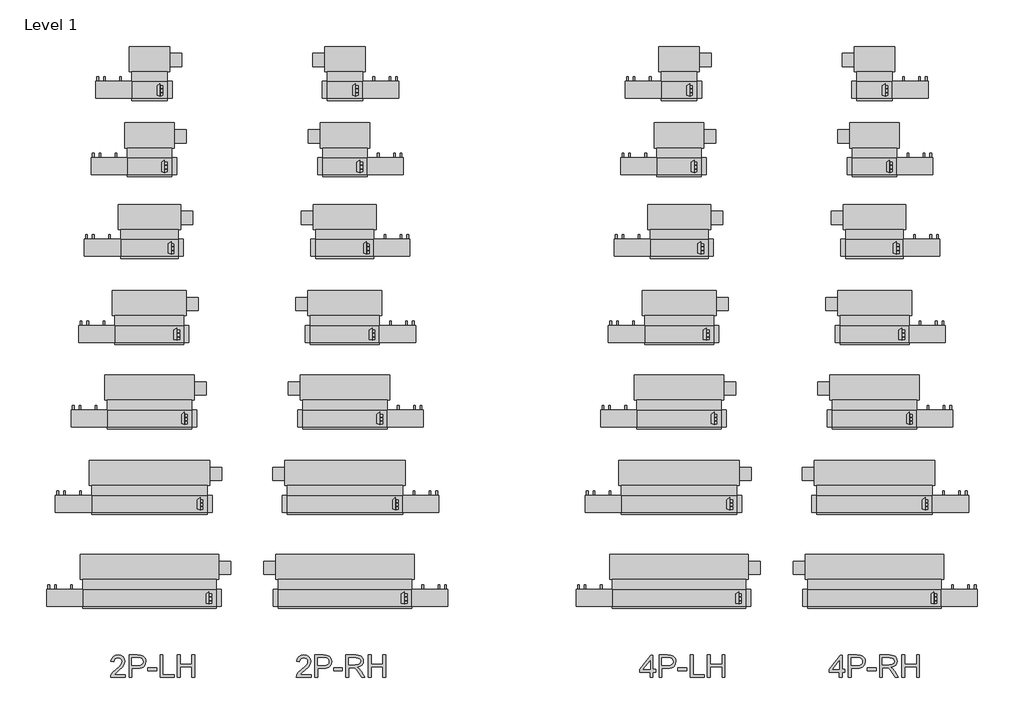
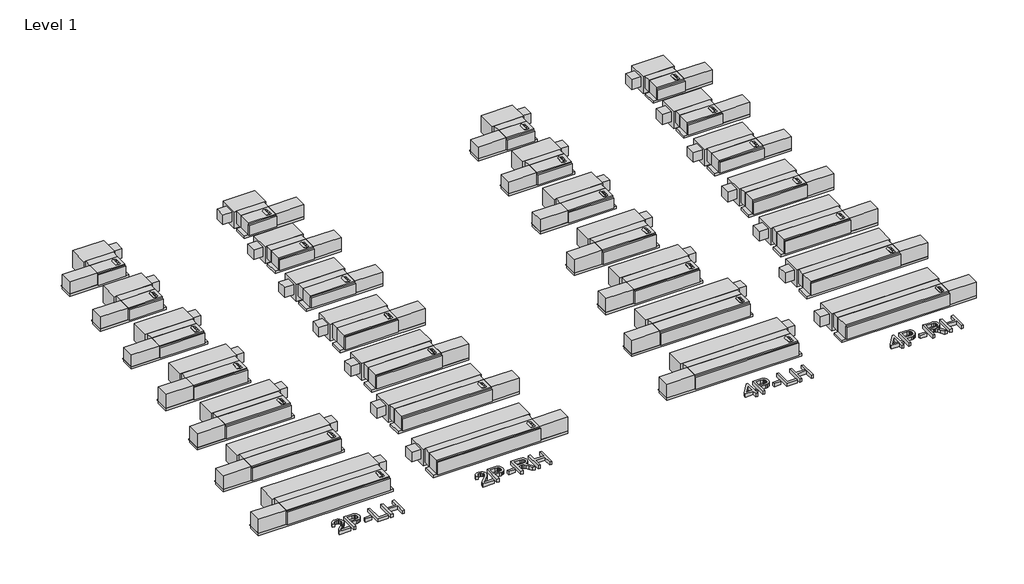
# One storey: 32 proxies.
"""IFC4 building model written with IfcOpenShell, lengths in millimetres."""

from ifc_helpers import new_model, si_unit, origin, origin_with_axes, place, context, project, spatial, polyline, outline, extrude, transform, mapped, element, save
from components import mechanical_equipment_0c561984, mechanical_equipment_afab2d6e, mechanical_equipment_a22b1383, mechanical_equipment_e39a46a9, mechanical_equipment_af69e00f, mechanical_equipment_293dd67b, mechanical_equipment_81682098, mechanical_equipment_88970b4e, mechanical_equipment_5e98ce93, mechanical_equipment_5c77c425, mechanical_equipment_a6213f75, mechanical_equipment_fca31fa8, mechanical_equipment_07888fbe, mechanical_equipment_3bed9208, mechanical_equipment_e7685a4b, mechanical_equipment_d865ccd7, mechanical_equipment_48855735, mechanical_equipment_4dd393c2, mechanical_equipment_a065ebe2, mechanical_equipment_361e63f6, mechanical_equipment_53f54806, mechanical_equipment_11e3d364, mechanical_equipment_d3277b74, mechanical_equipment_32d30ee1, mechanical_equipment_2c582193, mechanical_equipment_60b8502e, mechanical_equipment_2c707b15, mechanical_equipment_2a905be4

model = new_model("IFC4")

# Units and contexts
model_context = context("Model", 3, world=origin())
ifc_project = project(units=[si_unit("LENGTHUNIT", "METRE", prefix="MILLI")], contexts=[model_context])

# Site, building, storey
site = spatial("IfcSite", under=ifc_project)
building = spatial("IfcBuilding", under=site)
storey = spatial("IfcBuildingStorey", under=building, Name="Level 1", Elevation=0.0)

# Proxies
placement = place(None, origin())
mechanical_equipment_shape = mechanical_equipment_0c561984(model_context)
element("IfcBuildingElementProxy", 1, Name="Concealed_Horizontal_Fan_Coil_Unit_With_Plenum_-_CPF_-_IEC_-_4-Pipe_RH : Size 02 - 115v/60Hz/1Ph - 4/1 Coil", ObjectType="Concealed_Horizontal_Fan_Coil_Unit_With_Plenum_-_CPF_-_IEC_-_4-Pipe_RH : Size 02 - 115v/60Hz/1Ph - 4/1 Coil", at=placement, inside=storey, context=model_context, shape_type="MappedRepresentation", body=[
    mapped(mechanical_equipment_shape, transform((-96.0685623, 7763.6190863, 0.0), x_axis=(1.0, 0.0, 0.0), y_axis=(0.0, 1.0, 0.0), z_axis=(0.0, 0.0, 1.0))),
])
mechanical_equipment_2_shape = mechanical_equipment_afab2d6e(model_context)
element("IfcBuildingElementProxy", 2, Name="Concealed_Horizontal_Fan_Coil_Unit_With_Plenum_-_CPF_-_IEC_-_4-Pipe_RH : Size 03 - 115v/60Hz/1Ph - 4/1 Coil", ObjectType="Concealed_Horizontal_Fan_Coil_Unit_With_Plenum_-_CPF_-_IEC_-_4-Pipe_RH : Size 03 - 115v/60Hz/1Ph - 4/1 Coil", at=placement, inside=storey, context=model_context, shape_type="MappedRepresentation", body=[
    mapped(mechanical_equipment_2_shape, transform((-96.0685623, 6891.0041963, 0.0), x_axis=(1.0, 0.0, 0.0), y_axis=(0.0, 1.0, 0.0), z_axis=(0.0, 0.0, 1.0))),
])
mechanical_equipment_3_shape = mechanical_equipment_a22b1383(model_context)
element("IfcBuildingElementProxy", 3, Name="Concealed_Horizontal_Fan_Coil_Unit_With_Plenum_-_CPF_-_IEC_-_4-Pipe_RH : Size 04 - 115v/60Hz/1Ph - 4/1 Coil", ObjectType="Concealed_Horizontal_Fan_Coil_Unit_With_Plenum_-_CPF_-_IEC_-_4-Pipe_RH : Size 04 - 115v/60Hz/1Ph - 4/1 Coil", at=placement, inside=storey, context=model_context, shape_type="MappedRepresentation", body=[
    mapped(mechanical_equipment_3_shape, transform((-96.0685623, 5959.6121374, 0.0), x_axis=(1.0, 0.0, 0.0), y_axis=(0.0, 1.0, 0.0), z_axis=(0.0, 0.0, 1.0))),
])
mechanical_equipment_4_shape = mechanical_equipment_e39a46a9(model_context)
element("IfcBuildingElementProxy", 4, Name="Concealed_Horizontal_Fan_Coil_Unit_With_Plenum_-_CPF_-_IEC_-_4-Pipe_RH : Size 06 - 115v/60Hz/1Ph - 4/1 Coil", ObjectType="Concealed_Horizontal_Fan_Coil_Unit_With_Plenum_-_CPF_-_IEC_-_4-Pipe_RH : Size 06 - 115v/60Hz/1Ph - 4/1 Coil", at=placement, inside=storey, context=model_context, shape_type="MappedRepresentation", body=[
    mapped(mechanical_equipment_4_shape, transform((-96.0685623, 4973.9642305, 0.0), x_axis=(1.0, 0.0, 0.0), y_axis=(0.0, 1.0, 0.0), z_axis=(0.0, 0.0, 1.0))),
])
mechanical_equipment_5_shape = mechanical_equipment_af69e00f(model_context)
element("IfcBuildingElementProxy", 5, Name="Concealed_Horizontal_Fan_Coil_Unit_With_Plenum_-_CPF_-_IEC_-_4-Pipe_RH : Size 08 - 115v/60Hz/1Ph - 4/1 Coil", ObjectType="Concealed_Horizontal_Fan_Coil_Unit_With_Plenum_-_CPF_-_IEC_-_4-Pipe_RH : Size 08 - 115v/60Hz/1Ph - 4/1 Coil", at=placement, inside=storey, context=model_context, shape_type="MappedRepresentation", body=[
    mapped(mechanical_equipment_5_shape, transform((-96.0685623, 4010.922927, 0.0), x_axis=(1.0, 0.0, 0.0), y_axis=(0.0, 1.0, 0.0), z_axis=(0.0, 0.0, 1.0))),
])
mechanical_equipment_6_shape = mechanical_equipment_293dd67b(model_context)
element("IfcBuildingElementProxy", 6, Name="Concealed_Horizontal_Fan_Coil_Unit_With_Plenum_-_CPF_-_IEC_-_4-Pipe_RH : Size 10 - 115v/60Hz/1Ph - 4/1 Coil", ObjectType="Concealed_Horizontal_Fan_Coil_Unit_With_Plenum_-_CPF_-_IEC_-_4-Pipe_RH : Size 10 - 115v/60Hz/1Ph - 4/1 Coil", at=placement, inside=storey, context=model_context, shape_type="MappedRepresentation", body=[
    mapped(mechanical_equipment_6_shape, transform((-96.0685623, 3034.9801129, 0.0), x_axis=(1.0, 0.0, 0.0), y_axis=(0.0, 1.0, 0.0), z_axis=(0.0, 0.0, 1.0))),
])
mechanical_equipment_7_shape = mechanical_equipment_81682098(model_context)
element("IfcBuildingElementProxy", 7, Name="Concealed_Horizontal_Fan_Coil_Unit_With_Plenum_-_CPF_-_IEC_-_4-Pipe_RH : Size 12 - 115v/60Hz/1Ph - 4/1 Coil", ObjectType="Concealed_Horizontal_Fan_Coil_Unit_With_Plenum_-_CPF_-_IEC_-_4-Pipe_RH : Size 12 - 115v/60Hz/1Ph - 4/1 Coil", at=placement, inside=storey, context=model_context, shape_type="MappedRepresentation", body=[
    mapped(mechanical_equipment_7_shape, transform((-96.0685623, 1960.9651305, 0.0), x_axis=(1.0, 0.0, 0.0), y_axis=(0.0, 1.0, 0.0), z_axis=(0.0, 0.0, 1.0))),
])
mechanical_equipment_8_shape = mechanical_equipment_88970b4e(model_context)
element("IfcBuildingElementProxy", 8, Name="Concealed_Horizontal_Fan_Coil_Unit_With_Plenum_-_CPF_-_IEC_-_4-Pipe_LH : Size 02 - 115v/60Hz/1Ph - 4/1 Coil", ObjectType="Concealed_Horizontal_Fan_Coil_Unit_With_Plenum_-_CPF_-_IEC_-_4-Pipe_LH : Size 02 - 115v/60Hz/1Ph - 4/1 Coil", at=placement, inside=storey, context=model_context, shape_type="MappedRepresentation", body=[
    mapped(mechanical_equipment_8_shape, transform((-2326.3671378, 7763.6190863, 0.0), x_axis=(1.0, 0.0, 0.0), y_axis=(0.0, 1.0, 0.0), z_axis=(0.0, 0.0, 1.0))),
])
mechanical_equipment_9_shape = mechanical_equipment_5e98ce93(model_context)
element("IfcBuildingElementProxy", 9, Name="Concealed_Horizontal_Fan_Coil_Unit_With_Plenum_-_CPF_-_IEC_-_4-Pipe_LH : Size 03 - 115v/60Hz/1Ph - 4/1 Coil", ObjectType="Concealed_Horizontal_Fan_Coil_Unit_With_Plenum_-_CPF_-_IEC_-_4-Pipe_LH : Size 03 - 115v/60Hz/1Ph - 4/1 Coil", at=placement, inside=storey, context=model_context, shape_type="MappedRepresentation", body=[
    mapped(mechanical_equipment_9_shape, transform((-2326.3671378, 6891.0041963, 0.0), x_axis=(1.0, 0.0, 0.0), y_axis=(0.0, 1.0, 0.0), z_axis=(0.0, 0.0, 1.0))),
])
mechanical_equipment_10_shape = mechanical_equipment_5c77c425(model_context)
element("IfcBuildingElementProxy", 10, Name="Concealed_Horizontal_Fan_Coil_Unit_With_Plenum_-_CPF_-_IEC_-_4-Pipe_LH : Size 04 - 115v/60Hz/1Ph - 4/1 Coil", ObjectType="Concealed_Horizontal_Fan_Coil_Unit_With_Plenum_-_CPF_-_IEC_-_4-Pipe_LH : Size 04 - 115v/60Hz/1Ph - 4/1 Coil", at=placement, inside=storey, context=model_context, shape_type="MappedRepresentation", body=[
    mapped(mechanical_equipment_10_shape, transform((-2326.3671378, 5959.6121374, 0.0), x_axis=(1.0, 0.0, 0.0), y_axis=(0.0, 1.0, 0.0), z_axis=(0.0, 0.0, 1.0))),
])
mechanical_equipment_11_shape = mechanical_equipment_a6213f75(model_context)
element("IfcBuildingElementProxy", 11, Name="Concealed_Horizontal_Fan_Coil_Unit_With_Plenum_-_CPF_-_IEC_-_4-Pipe_LH : Size 06 - 115v/60Hz/1Ph - 4/1 Coil", ObjectType="Concealed_Horizontal_Fan_Coil_Unit_With_Plenum_-_CPF_-_IEC_-_4-Pipe_LH : Size 06 - 115v/60Hz/1Ph - 4/1 Coil", at=placement, inside=storey, context=model_context, shape_type="MappedRepresentation", body=[
    mapped(mechanical_equipment_11_shape, transform((-2326.3671378, 4973.9642305, 0.0), x_axis=(1.0, 0.0, 0.0), y_axis=(0.0, 1.0, 0.0), z_axis=(0.0, 0.0, 1.0))),
])
mechanical_equipment_12_shape = mechanical_equipment_fca31fa8(model_context)
element("IfcBuildingElementProxy", 12, Name="Concealed_Horizontal_Fan_Coil_Unit_With_Plenum_-_CPF_-_IEC_-_4-Pipe_LH : Size 08 - 115v/60Hz/1Ph - 4/1 Coil", ObjectType="Concealed_Horizontal_Fan_Coil_Unit_With_Plenum_-_CPF_-_IEC_-_4-Pipe_LH : Size 08 - 115v/60Hz/1Ph - 4/1 Coil", at=placement, inside=storey, context=model_context, shape_type="MappedRepresentation", body=[
    mapped(mechanical_equipment_12_shape, transform((-2326.3671378, 4010.922927, 0.0), x_axis=(1.0, 0.0, 0.0), y_axis=(0.0, 1.0, 0.0), z_axis=(0.0, 0.0, 1.0))),
])
mechanical_equipment_13_shape = mechanical_equipment_07888fbe(model_context)
element("IfcBuildingElementProxy", 13, Name="Concealed_Horizontal_Fan_Coil_Unit_With_Plenum_-_CPF_-_IEC_-_4-Pipe_LH : Size 10 - 115v/60Hz/1Ph - 4/1 Coil", ObjectType="Concealed_Horizontal_Fan_Coil_Unit_With_Plenum_-_CPF_-_IEC_-_4-Pipe_LH : Size 10 - 115v/60Hz/1Ph - 4/1 Coil", at=placement, inside=storey, context=model_context, shape_type="MappedRepresentation", body=[
    mapped(mechanical_equipment_13_shape, transform((-2326.3671378, 3034.9801129, 0.0), x_axis=(1.0, 0.0, 0.0), y_axis=(0.0, 1.0, 0.0), z_axis=(0.0, 0.0, 1.0))),
])
mechanical_equipment_14_shape = mechanical_equipment_3bed9208(model_context)
element("IfcBuildingElementProxy", 14, Name="Concealed_Horizontal_Fan_Coil_Unit_With_Plenum_-_CPF_-_IEC_-_4-Pipe_LH : Size 12 - 115v/60Hz/1Ph - 4/1 Coil", ObjectType="Concealed_Horizontal_Fan_Coil_Unit_With_Plenum_-_CPF_-_IEC_-_4-Pipe_LH : Size 12 - 115v/60Hz/1Ph - 4/1 Coil", at=placement, inside=storey, context=model_context, shape_type="MappedRepresentation", body=[
    mapped(mechanical_equipment_14_shape, transform((-2326.3671378, 1960.9651305, 0.0), x_axis=(1.0, 0.0, 0.0), y_axis=(0.0, 1.0, 0.0), z_axis=(0.0, 0.0, 1.0))),
])
mechanical_equipment_15_shape = mechanical_equipment_e7685a4b(model_context)
element("IfcBuildingElementProxy", 15, Name="Concealed_Horizontal_Fan_Coil_Unit_With_Plenum_-_CPF_-_IEC_-_2-Pipe_LH : Size 02 - 115v/60Hz/1Ph - 4/1 Coil", ObjectType="Concealed_Horizontal_Fan_Coil_Unit_With_Plenum_-_CPF_-_IEC_-_2-Pipe_LH : Size 02 - 115v/60Hz/1Ph - 4/1 Coil", at=placement, inside=storey, context=model_context, shape_type="MappedRepresentation", body=[
    mapped(mechanical_equipment_15_shape, transform((-8371.5671378, 7763.6190863, 0.0), x_axis=(1.0, 0.0, 0.0), y_axis=(0.0, 1.0, 0.0), z_axis=(0.0, 0.0, 1.0))),
])
mechanical_equipment_16_shape = mechanical_equipment_d865ccd7(model_context)
element("IfcBuildingElementProxy", 16, Name="Concealed_Horizontal_Fan_Coil_Unit_With_Plenum_-_CPF_-_IEC_-_2-Pipe_LH : Size 03 - 115v/60Hz/1Ph - 4/1 Coil", ObjectType="Concealed_Horizontal_Fan_Coil_Unit_With_Plenum_-_CPF_-_IEC_-_2-Pipe_LH : Size 03 - 115v/60Hz/1Ph - 4/1 Coil", at=placement, inside=storey, context=model_context, shape_type="MappedRepresentation", body=[
    mapped(mechanical_equipment_16_shape, transform((-8371.5671378, 6891.0041963, 0.0), x_axis=(1.0, 0.0, 0.0), y_axis=(0.0, 1.0, 0.0), z_axis=(0.0, 0.0, 1.0))),
])
mechanical_equipment_17_shape = mechanical_equipment_48855735(model_context)
element("IfcBuildingElementProxy", 17, Name="Concealed_Horizontal_Fan_Coil_Unit_With_Plenum_-_CPF_-_IEC_-_2-Pipe_LH : Size 04 - 115v/60Hz/1Ph - 4/1 Coil", ObjectType="Concealed_Horizontal_Fan_Coil_Unit_With_Plenum_-_CPF_-_IEC_-_2-Pipe_LH : Size 04 - 115v/60Hz/1Ph - 4/1 Coil", at=placement, inside=storey, context=model_context, shape_type="MappedRepresentation", body=[
    mapped(mechanical_equipment_17_shape, transform((-8371.5671378, 5959.6121374, 0.0), x_axis=(1.0, 0.0, 0.0), y_axis=(0.0, 1.0, 0.0), z_axis=(0.0, 0.0, 1.0))),
])
mechanical_equipment_18_shape = mechanical_equipment_4dd393c2(model_context)
element("IfcBuildingElementProxy", 18, Name="Concealed_Horizontal_Fan_Coil_Unit_With_Plenum_-_CPF_-_IEC_-_2-Pipe_LH : Size 06 - 115v/60Hz/1Ph - 4/1 Coil", ObjectType="Concealed_Horizontal_Fan_Coil_Unit_With_Plenum_-_CPF_-_IEC_-_2-Pipe_LH : Size 06 - 115v/60Hz/1Ph - 4/1 Coil", at=placement, inside=storey, context=model_context, shape_type="MappedRepresentation", body=[
    mapped(mechanical_equipment_18_shape, transform((-8371.5671378, 4973.9642305, 0.0), x_axis=(1.0, 0.0, 0.0), y_axis=(0.0, 1.0, 0.0), z_axis=(0.0, 0.0, 1.0))),
])
mechanical_equipment_19_shape = mechanical_equipment_a065ebe2(model_context)
element("IfcBuildingElementProxy", 19, Name="Concealed_Horizontal_Fan_Coil_Unit_With_Plenum_-_CPF_-_IEC_-_2-Pipe_LH : Size 08 - 115v/60Hz/1Ph - 4/1 Coil", ObjectType="Concealed_Horizontal_Fan_Coil_Unit_With_Plenum_-_CPF_-_IEC_-_2-Pipe_LH : Size 08 - 115v/60Hz/1Ph - 4/1 Coil", at=placement, inside=storey, context=model_context, shape_type="MappedRepresentation", body=[
    mapped(mechanical_equipment_19_shape, transform((-8371.5671378, 4010.922927, 0.0), x_axis=(1.0, 0.0, 0.0), y_axis=(0.0, 1.0, 0.0), z_axis=(0.0, 0.0, 1.0))),
])
mechanical_equipment_20_shape = mechanical_equipment_361e63f6(model_context)
element("IfcBuildingElementProxy", 20, Name="Concealed_Horizontal_Fan_Coil_Unit_With_Plenum_-_CPF_-_IEC_-_2-Pipe_LH : Size 10 - 115v/60Hz/1Ph - 4/1 Coil", ObjectType="Concealed_Horizontal_Fan_Coil_Unit_With_Plenum_-_CPF_-_IEC_-_2-Pipe_LH : Size 10 - 115v/60Hz/1Ph - 4/1 Coil", at=placement, inside=storey, context=model_context, shape_type="MappedRepresentation", body=[
    mapped(mechanical_equipment_20_shape, transform((-8371.5671378, 3034.9801129, 0.0), x_axis=(1.0, 0.0, 0.0), y_axis=(0.0, 1.0, 0.0), z_axis=(0.0, 0.0, 1.0))),
])
mechanical_equipment_21_shape = mechanical_equipment_53f54806(model_context)
element("IfcBuildingElementProxy", 21, Name="Concealed_Horizontal_Fan_Coil_Unit_With_Plenum_-_CPF_-_IEC_-_2-Pipe_LH : Size 12 - 115v/60Hz/1Ph - 4/1 Coil", ObjectType="Concealed_Horizontal_Fan_Coil_Unit_With_Plenum_-_CPF_-_IEC_-_2-Pipe_LH : Size 12 - 115v/60Hz/1Ph - 4/1 Coil", at=placement, inside=storey, context=model_context, shape_type="MappedRepresentation", body=[
    mapped(mechanical_equipment_21_shape, transform((-8371.5671378, 1960.9651305, 0.0), x_axis=(1.0, 0.0, 0.0), y_axis=(0.0, 1.0, 0.0), z_axis=(0.0, 0.0, 1.0))),
])
mechanical_equipment_22_shape = mechanical_equipment_11e3d364(model_context)
element("IfcBuildingElementProxy", 22, Name="Concealed_Horizontal_Fan_Coil_Unit_With_Plenum_-_CPF_-_IEC_-_2-Pipe_RH : Size 02 - 115v/60Hz/1Ph - 4/1 Coil", ObjectType="Concealed_Horizontal_Fan_Coil_Unit_With_Plenum_-_CPF_-_IEC_-_2-Pipe_RH : Size 02 - 115v/60Hz/1Ph - 4/1 Coil", at=placement, inside=storey, context=model_context, shape_type="MappedRepresentation", body=[
    mapped(mechanical_equipment_22_shape, transform((-6141.2685623, 7763.6190863, 0.0), x_axis=(1.0, 0.0, 0.0), y_axis=(0.0, 1.0, 0.0), z_axis=(0.0, 0.0, 1.0))),
])
mechanical_equipment_23_shape = mechanical_equipment_d3277b74(model_context)
element("IfcBuildingElementProxy", 23, Name="Concealed_Horizontal_Fan_Coil_Unit_With_Plenum_-_CPF_-_IEC_-_2-Pipe_RH : Size 03 - 115v/60Hz/1Ph - 4/1 Coil", ObjectType="Concealed_Horizontal_Fan_Coil_Unit_With_Plenum_-_CPF_-_IEC_-_2-Pipe_RH : Size 03 - 115v/60Hz/1Ph - 4/1 Coil", at=placement, inside=storey, context=model_context, shape_type="MappedRepresentation", body=[
    mapped(mechanical_equipment_23_shape, transform((-6141.2685623, 6891.0041963, 0.0), x_axis=(1.0, 0.0, 0.0), y_axis=(0.0, 1.0, 0.0), z_axis=(0.0, 0.0, 1.0))),
])
mechanical_equipment_24_shape = mechanical_equipment_32d30ee1(model_context)
element("IfcBuildingElementProxy", 24, Name="Concealed_Horizontal_Fan_Coil_Unit_With_Plenum_-_CPF_-_IEC_-_2-Pipe_RH : Size 04 - 115v/60Hz/1Ph - 4/1 Coil", ObjectType="Concealed_Horizontal_Fan_Coil_Unit_With_Plenum_-_CPF_-_IEC_-_2-Pipe_RH : Size 04 - 115v/60Hz/1Ph - 4/1 Coil", at=placement, inside=storey, context=model_context, shape_type="MappedRepresentation", body=[
    mapped(mechanical_equipment_24_shape, transform((-6141.2685623, 5959.6121374, 0.0), x_axis=(1.0, 0.0, 0.0), y_axis=(0.0, 1.0, 0.0), z_axis=(0.0, 0.0, 1.0))),
])
mechanical_equipment_25_shape = mechanical_equipment_2c582193(model_context)
element("IfcBuildingElementProxy", 25, Name="Concealed_Horizontal_Fan_Coil_Unit_With_Plenum_-_CPF_-_IEC_-_2-Pipe_RH : Size 06 - 115v/60Hz/1Ph - 4/1 Coil", ObjectType="Concealed_Horizontal_Fan_Coil_Unit_With_Plenum_-_CPF_-_IEC_-_2-Pipe_RH : Size 06 - 115v/60Hz/1Ph - 4/1 Coil", at=placement, inside=storey, context=model_context, shape_type="MappedRepresentation", body=[
    mapped(mechanical_equipment_25_shape, transform((-6141.2685623, 4973.9642305, 0.0), x_axis=(1.0, 0.0, 0.0), y_axis=(0.0, 1.0, 0.0), z_axis=(0.0, 0.0, 1.0))),
])
mechanical_equipment_26_shape = mechanical_equipment_60b8502e(model_context)
element("IfcBuildingElementProxy", 26, Name="Concealed_Horizontal_Fan_Coil_Unit_With_Plenum_-_CPF_-_IEC_-_2-Pipe_RH : Size 08 - 115v/60Hz/1Ph - 4/1 Coil", ObjectType="Concealed_Horizontal_Fan_Coil_Unit_With_Plenum_-_CPF_-_IEC_-_2-Pipe_RH : Size 08 - 115v/60Hz/1Ph - 4/1 Coil", at=placement, inside=storey, context=model_context, shape_type="MappedRepresentation", body=[
    mapped(mechanical_equipment_26_shape, transform((-6141.2685623, 4010.922927, 0.0), x_axis=(1.0, 0.0, 0.0), y_axis=(0.0, 1.0, 0.0), z_axis=(0.0, 0.0, 1.0))),
])
mechanical_equipment_27_shape = mechanical_equipment_2c707b15(model_context)
element("IfcBuildingElementProxy", 27, Name="Concealed_Horizontal_Fan_Coil_Unit_With_Plenum_-_CPF_-_IEC_-_2-Pipe_RH : Size 10 - 115v/60Hz/1Ph - 4/1 Coil", ObjectType="Concealed_Horizontal_Fan_Coil_Unit_With_Plenum_-_CPF_-_IEC_-_2-Pipe_RH : Size 10 - 115v/60Hz/1Ph - 4/1 Coil", at=placement, inside=storey, context=model_context, shape_type="MappedRepresentation", body=[
    mapped(mechanical_equipment_27_shape, transform((-6141.2685623, 3034.9801129, 0.0), x_axis=(1.0, 0.0, 0.0), y_axis=(0.0, 1.0, 0.0), z_axis=(0.0, 0.0, 1.0))),
])
mechanical_equipment_28_shape = mechanical_equipment_2a905be4(model_context)
element("IfcBuildingElementProxy", 28, Name="Concealed_Horizontal_Fan_Coil_Unit_With_Plenum_-_CPF_-_IEC_-_2-Pipe_RH : Size 12 - 115v/60Hz/1Ph - 4/1 Coil", ObjectType="Concealed_Horizontal_Fan_Coil_Unit_With_Plenum_-_CPF_-_IEC_-_2-Pipe_RH : Size 12 - 115v/60Hz/1Ph - 4/1 Coil", at=placement, inside=storey, context=model_context, shape_type="MappedRepresentation", body=[
    mapped(mechanical_equipment_28_shape, transform((-6141.2685623, 1960.9651305, 0.0), x_axis=(1.0, 0.0, 0.0), y_axis=(0.0, 1.0, 0.0), z_axis=(0.0, 0.0, 1.0))),
])
element("IfcBuildingElementProxy", 29, Name="24\" Arial", ObjectType="24\" Arial", at=placement, inside=storey, context=model_context, shape_type="SweptSolid", body=[
    extrude(outline(polyline([(-2505.8296222, 813.9800466), (-2505.8296222, 873.7829438), (-2621.4485566, 873.7829438), (-2621.4485566, 905.6778223), (-2497.8559025, 1065.1522146), (-2473.9347437, 1065.1522146), (-2473.9347437, 905.6778223), (-2442.0398652, 905.6778223), (-2442.0398652, 873.7829438), (-2473.9347437, 873.7829438), (-2473.9347437, 813.9800466), (-2505.8296222, 813.9800466)]), holes=[polyline([(-2505.8296222, 905.6778223), (-2505.8296222, 1004.2280132), (-2582.2029054, 905.6778223), (-2505.8296222, 905.6778223)])]), origin_with_axes(), (0.0, 0.0, 1.0), 50.8),
    extrude(outline(polyline([(-2402.1712671, 813.9800466), (-2402.1712671, 1069.1390744), (-2307.607936, 1069.1390744), (-2269.4835891, 1066.7095817), (-2252.4849271, 1062.1698566), (-2238.4919836, 1054.7801496), (-2227.2244325, 1044.2056269), (-2218.4019478, 1030.1114546), (-2212.7019842, 1013.4865606), (-2210.8019963, 995.3198733), (-2215.9335209, 965.2471143), (-2231.3280948, 940.1890775), (-2243.6566022, 930.3231568), (-2260.1160259, 923.2760706), (-2280.7063659, 919.0478189), (-2305.4276221, 917.6384017), (-2370.2763886, 917.6384017), (-2370.2763886, 813.9800466), (-2402.1712671, 813.9800466)]), holes=[polyline([(-2370.2763886, 949.5332802), (-2303.5587815, 949.5332802), (-2275.2769948, 952.4611303), (-2256.5885894, 961.2446808), (-2246.1698034, 975.3388532), (-2242.6968748, 994.198569), (-2244.7448125, 1008.5263464), (-2250.8886258, 1020.6115152), (-2260.3652047, 1029.7065391), (-2272.4114393, 1035.063882), (-2304.3063177, 1037.244196), (-2370.2763886, 1037.244196), (-2370.2763886, 949.5332802)])]), origin_with_axes(), (0.0, 0.0, 1.0), 50.8),
    extrude(outline(polyline([(-2186.8808374, 889.730383), (-2186.8808374, 921.6252615), (-2087.2093422, 921.6252615), (-2087.2093422, 889.730383), (-2186.8808374, 889.730383)])), origin_with_axes(), (0.0, 0.0, 1.0), 50.8),
    extrude(outline(polyline([(-2047.3407441, 813.9800466), (-2047.3407441, 1069.1390744), (-2015.4458656, 1069.1390744), (-2015.4458656, 845.8749251), (-1887.8663517, 845.8749251), (-1887.8663517, 813.9800466), (-2047.3407441, 813.9800466)])), origin_with_axes(), (0.0, 0.0, 1.0), 50.8),
    extrude(outline(polyline([(-1851.9846135, 813.9800466), (-1851.9846135, 1069.1390744), (-1820.089735, 1069.1390744), (-1820.089735, 965.4807194), (-1684.5365015, 965.4807194), (-1684.5365015, 1069.1390744), (-1652.641623, 1069.1390744), (-1652.641623, 813.9800466), (-1684.5365015, 813.9800466), (-1684.5365015, 933.5858409), (-1820.089735, 933.5858409), (-1820.089735, 813.9800466), (-1851.9846135, 813.9800466)])), origin_with_axes(), (0.0, 0.0, 1.0), 50.8),
])
element("IfcBuildingElementProxy", 30, Name="24\" Arial", ObjectType="24\" Arial", at=placement, inside=storey, context=model_context, shape_type="SweptSolid", body=[
    extrude(outline(polyline([(-344.7727579, 813.9800466), (-344.7727579, 873.7829438), (-460.3916923, 873.7829438), (-460.3916923, 905.6778223), (-336.7990383, 1065.1522146), (-312.8778794, 1065.1522146), (-312.8778794, 905.6778223), (-280.9830009, 905.6778223), (-280.9830009, 873.7829438), (-312.8778794, 873.7829438), (-312.8778794, 813.9800466), (-344.7727579, 813.9800466)]), holes=[polyline([(-344.7727579, 905.6778223), (-344.7727579, 1004.2280132), (-421.1460411, 905.6778223), (-344.7727579, 905.6778223)])]), origin_with_axes(), (0.0, 0.0, 1.0), 50.8),
    extrude(outline(polyline([(-241.1144028, 813.9800466), (-241.1144028, 1069.1390744), (-146.5510717, 1069.1390744), (-108.4267248, 1066.7095817), (-91.4280628, 1062.1698566), (-77.4351193, 1054.7801496), (-66.1675682, 1044.2056269), (-57.3450835, 1030.1114546), (-51.6451199, 1013.4865606), (-49.745132, 995.3198733), (-54.8766566, 965.2471143), (-70.2712305, 940.1890775), (-82.599738, 930.3231568), (-99.0591616, 923.2760706), (-119.6495016, 919.0478189), (-144.3707578, 917.6384017), (-209.2195244, 917.6384017), (-209.2195244, 813.9800466), (-241.1144028, 813.9800466)]), holes=[polyline([(-209.2195244, 949.5332802), (-142.5019172, 949.5332802), (-114.2201305, 952.4611303), (-95.5317251, 961.2446808), (-85.1129391, 975.3388532), (-81.6400105, 994.198569), (-83.6879482, 1008.5263464), (-89.8317615, 1020.6115152), (-99.3083404, 1029.7065391), (-111.354575, 1035.063882), (-143.2494535, 1037.244196), (-209.2195244, 1037.244196), (-209.2195244, 949.5332802)])]), origin_with_axes(), (0.0, 0.0, 1.0), 50.8),
    extrude(outline(polyline([(-25.8239731, 889.730383), (-25.8239731, 921.6252615), (73.8475221, 921.6252615), (73.8475221, 889.730383), (-25.8239731, 889.730383)])), origin_with_axes(), (0.0, 0.0, 1.0), 50.8),
    extrude(outline(polyline([(113.7161202, 813.9800466), (113.7161202, 1069.1390744), (223.6662383, 1069.1390744), (253.2172793, 1067.4181838), (274.7167323, 1062.2555118), (290.4305665, 1052.7244251), (302.624751, 1037.8982901), (310.4505207, 1019.5135714), (313.0591106, 999.3067331), (308.7374169, 974.1708279), (295.7723357, 953.3332559), (273.7745252, 938.0554845), (242.3546437, 929.5989811), (260.4823969, 915.9564452), (286.334691, 883.1271465), (328.8819605, 813.9800466), (291.8166232, 813.9800466), (258.6135564, 866.8682338), (234.6301028, 901.8778465), (217.7793907, 918.4170852), (202.610635, 924.490817), (184.1091137, 925.6121213), (145.6109986, 925.6121213), (145.6109986, 813.9800466), (113.7161202, 813.9800466)]), holes=[polyline([(145.6109986, 957.5069998), (217.0007071, 957.5069998), (253.4119502, 962.0233644), (265.3881033, 967.8946384), (274.0937855, 976.4757312), (279.3966205, 986.855583), (281.1642322, 998.1231341), (277.7925324, 1013.6812315), (267.677433, 1026.2180368), (250.2738555, 1034.4876562), (225.0367214, 1037.244196), (145.6109986, 1037.244196), (145.6109986, 957.5069998)])]), origin_with_axes(), (0.0, 0.0, 1.0), 50.8),
    extrude(outline(polyline([(368.875148, 813.9800466), (368.875148, 1069.1390744), (400.7700264, 1069.1390744), (400.7700264, 965.4807194), (536.3232599, 965.4807194), (536.3232599, 1069.1390744), (568.2181384, 1069.1390744), (568.2181384, 813.9800466), (536.3232599, 813.9800466), (536.3232599, 933.5858409), (400.7700264, 933.5858409), (400.7700264, 813.9800466), (368.875148, 813.9800466)])), origin_with_axes(), (0.0, 0.0, 1.0), 50.8),
])
element("IfcBuildingElementProxy", 31, Name="24\" Arial", ObjectType="24\" Arial", at=placement, inside=storey, context=model_context, shape_type="SweptSolid", body=[
    extrude(outline(polyline([(-6375.3563871, 845.8749251), (-6375.3563871, 813.9800466), (-6542.8044991, 813.9800466), (-6539.3782914, 835.9700703), (-6531.5135875, 853.1556164), (-6520.0046445, 869.8272313), (-6480.0737518, 906.7991266), (-6445.6559386, 937.370243), (-6425.0052506, 959.9364925), (-6414.6799067, 978.2511297), (-6411.2381254, 996.0674095), (-6414.4852358, 1012.0382092), (-6424.2265671, 1025.3147639), (-6439.2006519, 1034.2618379), (-6458.1460228, 1037.244196), (-6478.0413877, 1034.3319195), (-6493.4982563, 1025.5950899), (-6503.4731926, 1011.718949), (-6506.9227608, 993.3887381), (-6538.8176393, 997.3755979), (-6531.0853115, 1028.2270404), (-6514.3669756, 1050.7621425), (-6489.534757, 1064.5448414), (-6457.4607813, 1069.1390744), (-6425.1532005, 1064.0309103), (-6400.3677029, 1048.7064179), (-6384.5993609, 1025.8131213), (-6379.3432469, 997.9985447), (-6385.0120632, 967.7544754), (-6403.8562053, 936.4825437), (-6449.5493563, 892.7828226), (-6486.2409255, 862.1026904), (-6500.6309977, 845.8749251), (-6375.3563871, 845.8749251)])), origin_with_axes(), (0.0, 0.0, 1.0), 50.8),
    extrude(outline(polyline([(-6331.5009292, 813.9800466), (-6331.5009292, 1069.1390744), (-6236.9375981, 1069.1390744), (-6198.8132512, 1066.7095817), (-6181.8145891, 1062.1698566), (-6167.8216456, 1054.7801496), (-6156.5540946, 1044.2056269), (-6147.7316099, 1030.1114546), (-6142.0316462, 1013.4865606), (-6140.1316584, 995.3198733), (-6145.263183, 965.2471143), (-6160.6577569, 940.1890775), (-6172.9862643, 930.3231568), (-6189.445688, 923.2760706), (-6210.0360279, 919.0478189), (-6234.7572841, 917.6384017), (-6299.6060507, 917.6384017), (-6299.6060507, 813.9800466), (-6331.5009292, 813.9800466)]), holes=[polyline([(-6299.6060507, 949.5332802), (-6232.8884436, 949.5332802), (-6204.6066568, 952.4611303), (-6185.9182515, 961.2446808), (-6175.4994655, 975.3388532), (-6172.0265368, 994.198569), (-6174.0744746, 1008.5263464), (-6180.2182878, 1020.6115152), (-6189.6948667, 1029.7065391), (-6201.7411013, 1035.063882), (-6233.6359798, 1037.244196), (-6299.6060507, 1037.244196), (-6299.6060507, 949.5332802)])]), origin_with_axes(), (0.0, 0.0, 1.0), 50.8),
    extrude(outline(polyline([(-6116.2104995, 889.730383), (-6116.2104995, 921.6252615), (-6016.5390043, 921.6252615), (-6016.5390043, 889.730383), (-6116.2104995, 889.730383)])), origin_with_axes(), (0.0, 0.0, 1.0), 50.8),
    extrude(outline(polyline([(-5976.6704062, 813.9800466), (-5976.6704062, 1069.1390744), (-5866.720288, 1069.1390744), (-5837.169247, 1067.4181838), (-5815.669794, 1062.2555118), (-5799.9559599, 1052.7244251), (-5787.7617754, 1037.8982901), (-5779.9360056, 1019.5135714), (-5777.3274157, 999.3067331), (-5781.6491095, 974.1708279), (-5794.6141907, 953.3332559), (-5816.6120012, 938.0554845), (-5848.0318827, 929.5989811), (-5829.9041295, 915.9564452), (-5804.0518354, 883.1271465), (-5761.5045659, 813.9800466), (-5798.5699031, 813.9800466), (-5831.77297, 866.8682338), (-5855.7564235, 901.8778465), (-5872.6071357, 918.4170852), (-5887.7758914, 924.490817), (-5906.2774127, 925.6121213), (-5944.7755277, 925.6121213), (-5944.7755277, 813.9800466), (-5976.6704062, 813.9800466)]), holes=[polyline([(-5944.7755277, 957.5069998), (-5873.3858193, 957.5069998), (-5836.9745762, 962.0233644), (-5824.9984231, 967.8946384), (-5816.2927409, 976.4757312), (-5810.9899059, 986.855583), (-5809.2222942, 998.1231341), (-5812.593994, 1013.6812315), (-5822.7090934, 1026.2180368), (-5840.1126709, 1034.4876562), (-5865.349805, 1037.244196), (-5944.7755277, 1037.244196), (-5944.7755277, 957.5069998)])]), origin_with_axes(), (0.0, 0.0, 1.0), 50.8),
    extrude(outline(polyline([(-5721.5113784, 813.9800466), (-5721.5113784, 1069.1390744), (-5689.6164999, 1069.1390744), (-5689.6164999, 965.4807194), (-5554.0632664, 965.4807194), (-5554.0632664, 1069.1390744), (-5522.1683879, 1069.1390744), (-5522.1683879, 813.9800466), (-5554.0632664, 813.9800466), (-5554.0632664, 933.5858409), (-5689.6164999, 933.5858409), (-5689.6164999, 813.9800466), (-5721.5113784, 813.9800466)])), origin_with_axes(), (0.0, 0.0, 1.0), 50.8),
])
element("IfcBuildingElementProxy", 32, Name="24\" Arial", ObjectType="24\" Arial", at=placement, inside=storey, context=model_context, shape_type="SweptSolid", body=[
    extrude(outline(polyline([(-8495.3404536, 845.8749251), (-8495.3404536, 813.9800466), (-8662.7885656, 813.9800466), (-8659.3623579, 835.9700703), (-8651.497654, 853.1556164), (-8639.988711, 869.8272313), (-8600.0578183, 906.7991266), (-8565.6400051, 937.370243), (-8544.9893171, 959.9364925), (-8534.6639732, 978.2511297), (-8531.2221919, 996.0674095), (-8534.4693023, 1012.0382092), (-8544.2106336, 1025.3147639), (-8559.1847184, 1034.2618379), (-8578.1300893, 1037.244196), (-8598.0254542, 1034.3319195), (-8613.4823228, 1025.5950899), (-8623.4572591, 1011.718949), (-8626.9068273, 993.3887381), (-8658.8017058, 997.3755979), (-8651.069378, 1028.2270404), (-8634.3510421, 1050.7621425), (-8609.5188235, 1064.5448414), (-8577.4448478, 1069.1390744), (-8545.137267, 1064.0309103), (-8520.3517694, 1048.7064179), (-8504.5834274, 1025.8131213), (-8499.3273134, 997.9985447), (-8504.9961297, 967.7544754), (-8523.8402718, 936.4825437), (-8569.5334228, 892.7828226), (-8606.224992, 862.1026904), (-8620.6150641, 845.8749251), (-8495.3404536, 845.8749251)])), origin_with_axes(), (0.0, 0.0, 1.0), 50.8),
    extrude(outline(polyline([(-8451.4849957, 813.9800466), (-8451.4849957, 1069.1390744), (-8356.9216646, 1069.1390744), (-8318.7973177, 1066.7095817), (-8301.7986556, 1062.1698566), (-8287.8057121, 1054.7801496), (-8276.5381611, 1044.2056269), (-8267.7156764, 1030.1114546), (-8262.0157127, 1013.4865606), (-8260.1157249, 995.3198733), (-8265.2472495, 965.2471143), (-8280.6418234, 940.1890775), (-8292.9703308, 930.3231568), (-8309.4297545, 923.2760706), (-8330.0200944, 919.0478189), (-8354.7413506, 917.6384017), (-8419.5901172, 917.6384017), (-8419.5901172, 813.9800466), (-8451.4849957, 813.9800466)]), holes=[polyline([(-8419.5901172, 949.5332802), (-8352.8725101, 949.5332802), (-8324.5907233, 952.4611303), (-8305.902318, 961.2446808), (-8295.483532, 975.3388532), (-8292.0106033, 994.198569), (-8294.0585411, 1008.5263464), (-8300.2023543, 1020.6115152), (-8309.6789332, 1029.7065391), (-8321.7251678, 1035.063882), (-8353.6200463, 1037.244196), (-8419.5901172, 1037.244196), (-8419.5901172, 949.5332802)])]), origin_with_axes(), (0.0, 0.0, 1.0), 50.8),
    extrude(outline(polyline([(-8236.194566, 889.730383), (-8236.194566, 921.6252615), (-8136.5230708, 921.6252615), (-8136.5230708, 889.730383), (-8236.194566, 889.730383)])), origin_with_axes(), (0.0, 0.0, 1.0), 50.8),
    extrude(outline(polyline([(-8096.6544727, 813.9800466), (-8096.6544727, 1069.1390744), (-8064.7595942, 1069.1390744), (-8064.7595942, 845.8749251), (-7937.1800803, 845.8749251), (-7937.1800803, 813.9800466), (-8096.6544727, 813.9800466)])), origin_with_axes(), (0.0, 0.0, 1.0), 50.8),
    extrude(outline(polyline([(-7901.298342, 813.9800466), (-7901.298342, 1069.1390744), (-7869.4034636, 1069.1390744), (-7869.4034636, 965.4807194), (-7733.8502301, 965.4807194), (-7733.8502301, 1069.1390744), (-7701.9553516, 1069.1390744), (-7701.9553516, 813.9800466), (-7733.8502301, 813.9800466), (-7733.8502301, 933.5858409), (-7869.4034636, 933.5858409), (-7869.4034636, 813.9800466), (-7901.298342, 813.9800466)])), origin_with_axes(), (0.0, 0.0, 1.0), 50.8),
])

save(model, "model.ifc")
